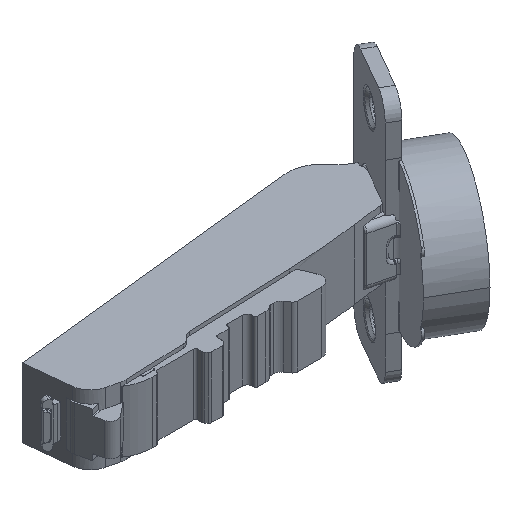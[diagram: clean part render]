
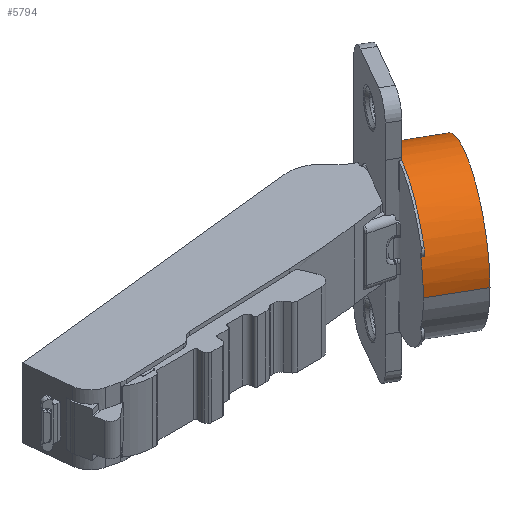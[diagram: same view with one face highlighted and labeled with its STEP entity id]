
A CAD part, isometric view. The second image highlights one B-rep face of the part: STEP entity #5794.
In plain terms, the highlighted cylindrical face has radius 17.4 mm (diameter 34.8 mm), a partial arc.
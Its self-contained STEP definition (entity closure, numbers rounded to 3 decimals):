
#49 = CARTESIAN_POINT ( 'NONE',  ( 42.509, 37.294, 6.727 ) ) ;
#125 = EDGE_CURVE ( 'NONE', #3747, #11679, #8892, .T. ) ;
#167 = CARTESIAN_POINT ( 'NONE',  ( 34.444, 23.325, 17.477 ) ) ;
#233 = CARTESIAN_POINT ( 'NONE',  ( 27.946, 12.071, 11.625 ) ) ;
#360 = AXIS2_PLACEMENT_3D ( 'NONE', #10514, #1846, #5703 ) ;
#384 = VECTOR ( 'NONE', #2023, 1000. ) ;
#628 = CARTESIAN_POINT ( 'NONE',  ( 52.016, 30.761, 8.84 ) ) ;
#692 = CARTESIAN_POINT ( 'NONE',  ( 46.683, 21.525, 17.008 ) ) ;
#733 = LINE ( 'NONE', #2647, #8290 ) ;
#901 = DIRECTION ( 'NONE',  ( 0.5, 0.866, 0. ) ) ;
#987 = CARTESIAN_POINT ( 'NONE',  ( 41.835, 36.127, 9.332 ) ) ;
#1106 = CARTESIAN_POINT ( 'NONE',  ( 31.563, 18.336, 16.486 ) ) ;
#1120 = CARTESIAN_POINT ( 'NONE',  ( 35.719, 2.534, 0.05 ) ) ;
#1130 = CARTESIAN_POINT ( 'NONE',  ( 26.218, 9.982, 7.55 ) ) ;
#1232 = CARTESIAN_POINT ( 'NONE',  ( 39.495, 32.073, 14.274 ) ) ;
#1572 = ORIENTED_EDGE ( 'NONE', *, *, #3505, .T. ) ;
#1574 = CARTESIAN_POINT ( 'NONE',  ( 53.119, 32.672, 2.357 ) ) ;
#1846 = DIRECTION ( 'NONE',  ( 0.866, -0.5, 0. ) ) ;
#1899 = EDGE_CURVE ( 'NONE', #8246, #11978, #10056, .T. ) ;
#1945 = CARTESIAN_POINT ( 'NONE',  ( 33.955, 22.479, 17.448 ) ) ;
#2023 = DIRECTION ( 'NONE',  ( 0.866, -0.5, 0. ) ) ;
#2070 = CARTESIAN_POINT ( 'NONE',  ( 31.107, 17.546, 16.136 ) ) ;
#2131 = CARTESIAN_POINT ( 'NONE',  ( 38.231, 29.884, 15.761 ) ) ;
#2443 = ORIENTED_EDGE ( 'NONE', *, *, #125, .T. ) ;
#2454 = B_SPLINE_CURVE_WITH_KNOTS ( 'NONE', 3,
 ( #3625, #3563, #6525, #3690 ),
 .UNSPECIFIED., .F., .F.,
 ( 4, 4 ),
 ( 0., 1. ),
 .UNSPECIFIED. ) ;
#2598 = CARTESIAN_POINT ( 'NONE',  ( 45.572, 19.6, 17.45 ) ) ;
#2647 = CARTESIAN_POINT ( 'NONE',  ( 0.106, 63.279, 0.05 ) ) ;
#3028 = CARTESIAN_POINT ( 'NONE',  ( 29.806, 15.292, 14.783 ) ) ;
#3033 = EDGE_LOOP ( 'NONE', ( #10098, #1572, #10594, #10930, #11377, #2443, #4987 ) ) ;
#3484 = EDGE_CURVE ( 'NONE', #8246, #11679, #2454, .T. ) ;
#3505 = EDGE_CURVE ( 'NONE', #11978, #7306, #4117, .T. ) ;
#3548 = CARTESIAN_POINT ( 'NONE',  ( 39.083, 8.36, 13.984 ) ) ;
#3563 = CARTESIAN_POINT ( 'NONE',  ( 26.271, 10.169, 7.935 ) ) ;
#3625 = CARTESIAN_POINT ( 'NONE',  ( 26.324, 10.262, 8.14 ) ) ;
#3690 = CARTESIAN_POINT ( 'NONE',  ( 26.218, 9.982, 7.55 ) ) ;
#3738 = CARTESIAN_POINT ( 'NONE',  ( 51.386, 29.671, 10.723 ) ) ;
#3747 = VERTEX_POINT ( 'NONE', #11513 ) ;
#3909 = CARTESIAN_POINT ( 'NONE',  ( 42.833, 37.855, 4.88 ) ) ;
#4029 = CARTESIAN_POINT ( 'NONE',  ( 35.421, 25.018, 17.371 ) ) ;
#4117 = LINE ( 'NONE', #10629, #384 ) ;
#4187 = EDGE_CURVE ( 'NONE', #8908, #5872, #733, .T. ) ;
#4613 = CARTESIAN_POINT ( 'NONE',  ( 37.452, 5.535, 10.723 ) ) ;
#4793 = CARTESIAN_POINT ( 'NONE',  ( 35.94, 2.917, 4.578 ) ) ;
#4852 = CARTESIAN_POINT ( 'NONE',  ( 42.309, 36.948, 7.619 ) ) ;
#4896 = EDGE_CURVE ( 'NONE', #5872, #7306, #4973, .T. ) ;
#4973 = B_SPLINE_CURVE_WITH_KNOTS ( 'NONE', 3,
 ( #10248, #1574, #9308, #628, #3738, #10438, #12414, #692, #2598, #6569, #12226, #9489, #3548, #4613, #7576, #4793, #5680, #11454 ),
 .UNSPECIFIED., .F., .F.,
 ( 4, 2, 2, 2, 2, 2, 2, 2, 4 ),
 ( 0., 0.125, 0.25, 0.375, 0.5, 0.625, 0.75, 0.875, 1. ),
 .UNSPECIFIED. ) ;
#4987 = ORIENTED_EDGE ( 'NONE', *, *, #3484, .F. ) ;
#5014 = FACE_OUTER_BOUND ( 'NONE', #3033, .T. ) ;
#5104 = CARTESIAN_POINT ( 'NONE',  ( 40.952, 34.598, 11.674 ) ) ;
#5680 = CARTESIAN_POINT ( 'NONE',  ( 35.719, 2.534, 2.358 ) ) ;
#5703 = DIRECTION ( 'NONE',  ( -0.5, -0.866, 0. ) ) ;
#5794 = ADVANCED_FACE ( 'NONE', ( #5014 ), #7847, .T. ) ;
#5798 = CARTESIAN_POINT ( 'NONE',  ( 35.905, 25.856, 17.236 ) ) ;
#5872 = VERTEX_POINT ( 'NONE', #8173 ) ;
#6040 = CARTESIAN_POINT ( 'NONE',  ( 37.326, 28.317, 16.508 ) ) ;
#6170 = CARTESIAN_POINT ( 'NONE',  ( 42.955, 38.066, 3.933 ) ) ;
#6236 = CARTESIAN_POINT ( 'NONE',  ( 43.16, 38.422, 1.03 ) ) ;
#6525 = CARTESIAN_POINT ( 'NONE',  ( 26.242, 10.073, 7.74 ) ) ;
#6569 = CARTESIAN_POINT ( 'NONE',  ( 43.266, 15.606, 17.45 ) ) ;
#6749 = CARTESIAN_POINT ( 'NONE',  ( 27.068, 10.549, 9.277 ) ) ;
#6865 = CARTESIAN_POINT ( 'NONE',  ( 30.226, 16.02, 15.282 ) ) ;
#6903 = DIRECTION ( 'NONE',  ( 0.866, -0.5, 0. ) ) ;
#6928 = CARTESIAN_POINT ( 'NONE',  ( 36.86, 27.51, 16.804 ) ) ;
#7306 = VERTEX_POINT ( 'NONE', #1120 ) ;
#7576 = CARTESIAN_POINT ( 'NONE',  ( 36.823, 4.446, 8.84 ) ) ;
#7668 = CARTESIAN_POINT ( 'NONE',  ( -8.594, 48.21, 0.05 ) ) ;
#7694 = CARTESIAN_POINT ( 'NONE',  ( 26.61, 9.756, 7.55 ) ) ;
#7815 = CARTESIAN_POINT ( 'NONE',  ( 28.636, 13.266, 13.014 ) ) ;
#7847 = CYLINDRICAL_SURFACE ( 'NONE', #9532, 17.4 ) ;
#7874 = CARTESIAN_POINT ( 'NONE',  ( 26.821, 10.122, 8.434 ) ) ;
#7923 = B_SPLINE_CURVE_WITH_KNOTS ( 'NONE', 3,
 ( #7694, #7874, #6749, #8719, #233, #7815, #11698, #3028, #6865, #2070, #1106, #10611, #7940, #1945, #167, #4029, #5798, #6928, #6040, #2131, #9665, #1232, #9850, #10861, #5104, #8969, #987, #4852, #49, #3909, #6170, #11188, #6236, #12012 ),
 .UNSPECIFIED., .F., .F.,
 ( 4, 2, 2, 2, 2, 2, 2, 2, 2, 2, 2, 2, 2, 2, 2, 2, 4 ),
 ( 0., 0.062, 0.125, 0.187, 0.25, 0.313, 0.375, 0.438, 0.5, 0.563, 0.625, 0.688, 0.75, 0.813, 0.875, 0.938, 1. ),
 .UNSPECIFIED. ) ;
#7940 = CARTESIAN_POINT ( 'NONE',  ( 32.983, 20.794, 17.225 ) ) ;
#8173 = CARTESIAN_POINT ( 'NONE',  ( 53.119, 32.672, 0.05 ) ) ;
#8246 = VERTEX_POINT ( 'NONE', #11839 ) ;
#8290 = VECTOR ( 'NONE', #8398, 1000. ) ;
#8398 = DIRECTION ( 'NONE',  ( 0.866, -0.5, 0. ) ) ;
#8614 = EDGE_CURVE ( 'NONE', #3747, #8908, #7923, .T. ) ;
#8719 = CARTESIAN_POINT ( 'NONE',  ( 27.632, 11.526, 10.877 ) ) ;
#8812 = VECTOR ( 'NONE', #11746, 1000. ) ;
#8892 = LINE ( 'NONE', #10916, #8812 ) ;
#8908 = VERTEX_POINT ( 'NONE', #12508 ) ;
#8969 = CARTESIAN_POINT ( 'NONE',  ( 41.563, 35.656, 10.145 ) ) ;
#9308 = CARTESIAN_POINT ( 'NONE',  ( 52.898, 32.289, 4.578 ) ) ;
#9432 = CARTESIAN_POINT ( 'NONE',  ( 25.327, 8.534, 0.05 ) ) ;
#9489 = CARTESIAN_POINT ( 'NONE',  ( 40.025, 9.991, 15.243 ) ) ;
#9532 = AXIS2_PLACEMENT_3D ( 'NONE', #7668, #6903, #901 ) ;
#9665 = CARTESIAN_POINT ( 'NONE',  ( 38.665, 30.637, 15.314 ) ) ;
#9850 = CARTESIAN_POINT ( 'NONE',  ( 39.886, 32.75, 13.687 ) ) ;
#10056 = CIRCLE ( 'NONE', #360, 17.4 ) ;
#10098 = ORIENTED_EDGE ( 'NONE', *, *, #1899, .T. ) ;
#10248 = CARTESIAN_POINT ( 'NONE',  ( 53.119, 32.672, 0.05 ) ) ;
#10438 = CARTESIAN_POINT ( 'NONE',  ( 49.756, 26.846, 13.985 ) ) ;
#10514 = CARTESIAN_POINT ( 'NONE',  ( 34.027, 23.603, 0.05 ) ) ;
#10594 = ORIENTED_EDGE ( 'NONE', *, *, #4896, .F. ) ;
#10611 = CARTESIAN_POINT ( 'NONE',  ( 32.503, 19.964, 17.033 ) ) ;
#10629 = CARTESIAN_POINT ( 'NONE',  ( -17.294, 33.142, 0.05 ) ) ;
#10861 = CARTESIAN_POINT ( 'NONE',  ( 40.616, 34.016, 12.384 ) ) ;
#10916 = CARTESIAN_POINT ( 'NONE',  ( 26.523, 9.806, 7.55 ) ) ;
#10930 = ORIENTED_EDGE ( 'NONE', *, *, #4187, .F. ) ;
#11188 = CARTESIAN_POINT ( 'NONE',  ( 43.119, 38.351, 2.003 ) ) ;
#11377 = ORIENTED_EDGE ( 'NONE', *, *, #8614, .F. ) ;
#11454 = CARTESIAN_POINT ( 'NONE',  ( 35.719, 2.534, 0.05 ) ) ;
#11513 = CARTESIAN_POINT ( 'NONE',  ( 26.61, 9.756, 7.55 ) ) ;
#11679 = VERTEX_POINT ( 'NONE', #1130 ) ;
#11698 = CARTESIAN_POINT ( 'NONE',  ( 29.009, 13.912, 13.646 ) ) ;
#11746 = DIRECTION ( 'NONE',  ( -0.866, 0.5, 0. ) ) ;
#11839 = CARTESIAN_POINT ( 'NONE',  ( 26.324, 10.262, 8.14 ) ) ;
#11978 = VERTEX_POINT ( 'NONE', #9432 ) ;
#12012 = CARTESIAN_POINT ( 'NONE',  ( 43.16, 38.422, 0.05 ) ) ;
#12226 = CARTESIAN_POINT ( 'NONE',  ( 42.155, 13.682, 17.008 ) ) ;
#12414 = CARTESIAN_POINT ( 'NONE',  ( 48.814, 25.215, 15.243 ) ) ;
#12508 = CARTESIAN_POINT ( 'NONE',  ( 43.16, 38.422, 0.05 ) ) ;
